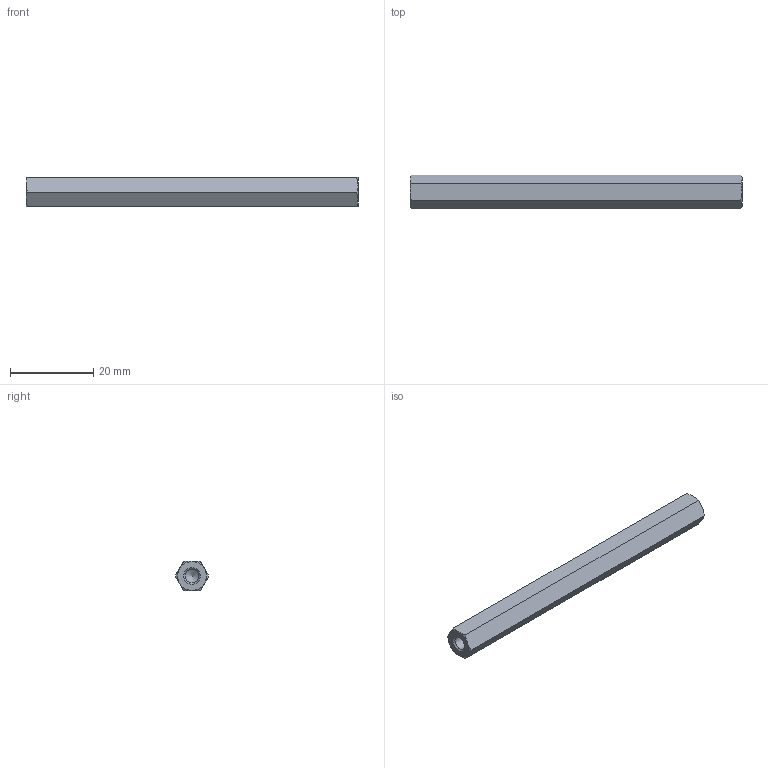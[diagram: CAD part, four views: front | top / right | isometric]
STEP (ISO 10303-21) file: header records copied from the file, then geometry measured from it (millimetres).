
FILE_DESCRIPTION( ( 'STEP AP203' ), '1' );
FILE_NAME( 'C:/Temp/Ganter_Step_05_03_2020/data/3_2/gn6220/gn6220_ni/Stainless Steel-Spacer GN 6220-NI-M4-80-A.stp', '2020-03-13T05:42:59', ( 'License CC BY-ND 4.0' ), ( 'CADENAS' ), ' ', 'PARTsolutions', ' ' );
FILE_SCHEMA( ( 'CONFIG_CONTROL_DESIGN' ) );
Length unit declared in the file: millimetre
Products named in the file (1): _Stainless Steel-Spacer GN 6220-NI-M4-80-A
Bounding box: 80 x 8.08 x 7 mm (x, y, z)
Volume: 3159.3 mm3; surface area: 2300.5 mm2
Topology: 1 solids, 1 shells, 26 faces, 57 edges, 33 vertices
Faces by surface type: cone 16, plane 8, cylinder 2
Full cylindrical faces by diameter (mm): 3.242 x2
Entity records: 750 total; most frequent: CARTESIAN_POINT 211, DIRECTION 96, ORIENTED_EDGE 96, EDGE_CURVE 48, AXIS2_PLACEMENT_3D 45, EDGE_LOOP 32, VERTEX_POINT 32, FACE_OUTER_BOUND 28
